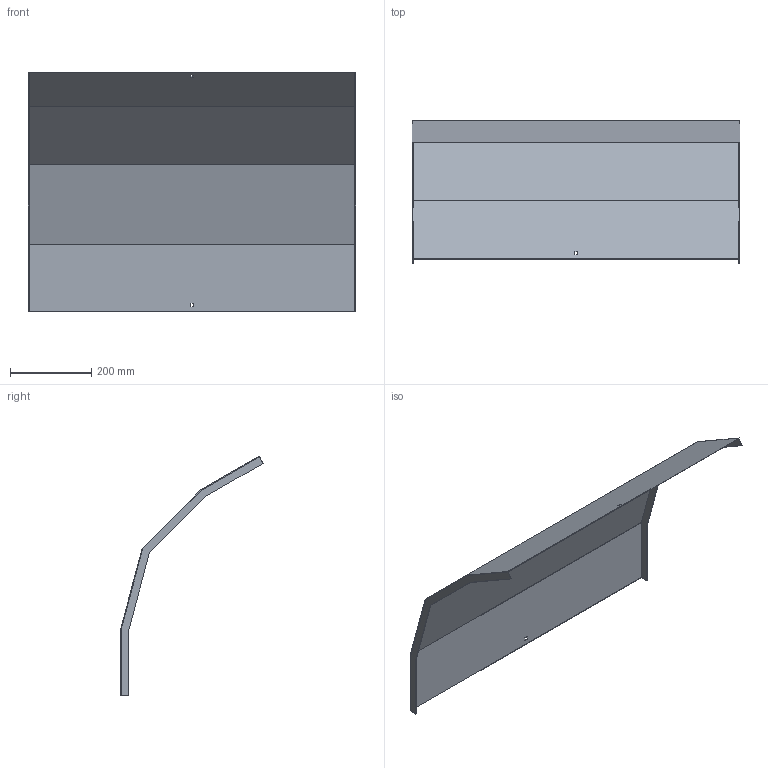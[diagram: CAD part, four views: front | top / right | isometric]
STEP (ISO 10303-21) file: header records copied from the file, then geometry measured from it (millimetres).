
FILE_DESCRIPTION (( 'STEP AP214' ), '1' );
FILE_NAME ('A2_41N3D800.step', '2025-02-21T10:40:18', ( '' ), ( '' ), 'SwSTEP 2.0', 'SolidWorks 2023', '' );
FILE_SCHEMA (( 'AUTOMOTIVE_DESIGN' ));
Length unit declared in the file: millimetre
Products named in the file (1): A2_41N3D800
Bounding box: 803 x 349.52 x 588.06 mm (x, y, z)
Volume: 927165.9 mm3; surface area: 1240984.7 mm2
Topology: 1 solids, 1 shells, 30 faces, 84 edges, 56 vertices
Faces by surface type: plane 30
Entity records: 979 total; most frequent: CARTESIAN_POINT 171, ORIENTED_EDGE 168, DIRECTION 146, EDGE_CURVE 84, LINE 84, VECTOR 84, VERTEX_POINT 56, EDGE_LOOP 34
